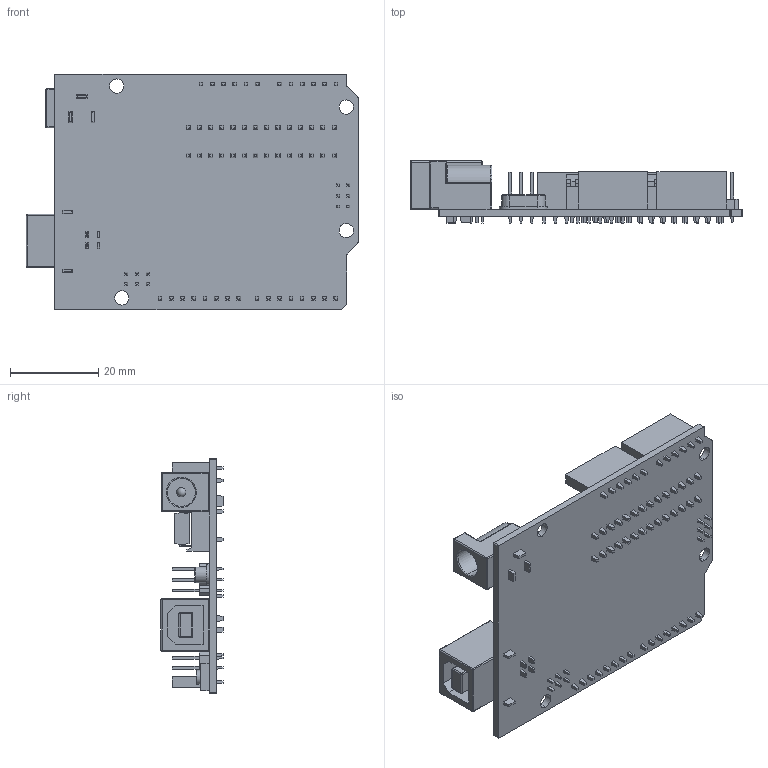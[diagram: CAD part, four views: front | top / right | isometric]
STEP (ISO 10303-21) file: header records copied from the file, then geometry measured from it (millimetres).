
FILE_DESCRIPTION (( 'STEP AP214' ), '1' );
FILE_NAME ('ArduinoUNO.STEP', '2015-10-19T21:25:16', ( '' ), ( '' ), 'SwSTEP 2.0', 'SolidWorks 2014', '' );
FILE_SCHEMA (( 'AUTOMOTIVE_DESIGN' ));
Length unit declared in the file: inch
Products named in the file (1): ArduinoUNO
Bounding box: 75.08 x 14.03 x 53.34 mm (x, y, z)
Volume: 12415 mm3; surface area: 13970 mm2
Topology: 1 solids, 1 shells, 2276 faces, 5980 edges, 3934 vertices
Faces by surface type: plane 1707, bspline 422, cylinder 121, sphere 18, torus 8
Entity records: 94952 total; most frequent: CARTESIAN_POINT 38541, ORIENTED_EDGE 11918, DIRECTION 9068, EDGE_CURVE 5959, LINE 4862, VECTOR 4862, VERTEX_POINT 3932, EDGE_LOOP 2585
